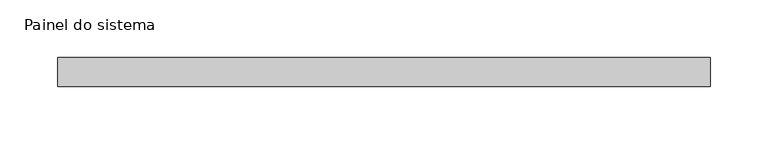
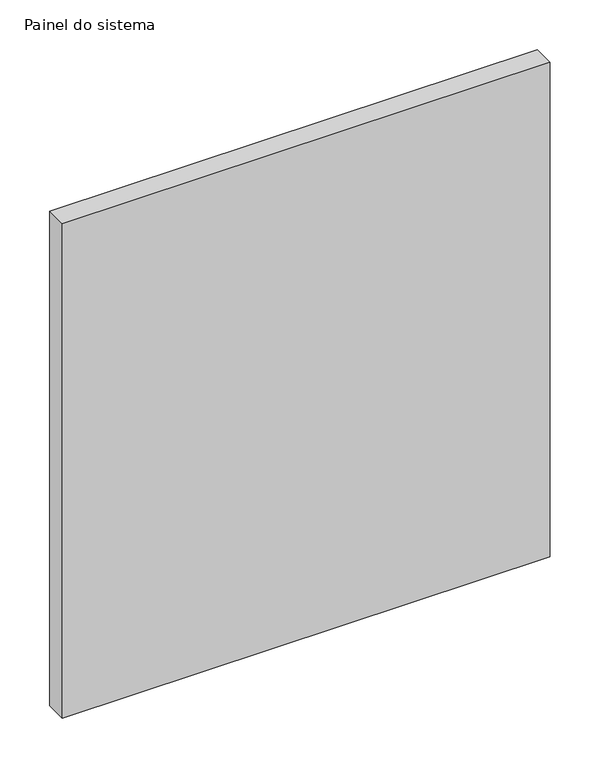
"""IFC4 building model written with IfcOpenShell, lengths in millimetres: plate geometry, Painel do sistema : Envidraçado."""

from ifc_helpers import new_model, si_unit, origin, origin_with_axes, place, context, project, spatial, polyline, outline, extrude, source, transform, mapped, element, save


def painel_do_sistema_d329bd49(model_context):
    return source(origin(), model_context, "Body", "SweptSolid", [
        extrude(outline(polyline([(282.5, 24.5), (-282.5, 24.5), (-282.5, 49.5), (282.5, 49.5), (282.5, 24.5)])), origin_with_axes(), (0.0, 0.0, 1.0), 605.0),
    ])


if __name__ == "__main__":
    model = new_model("IFC4")
    model_context = context("Model", 3, world=origin())
    ifc_project = project(units=[si_unit("LENGTHUNIT", "METRE", prefix="MILLI")], contexts=[model_context])
    site = spatial("IfcSite", under=ifc_project)
    building = spatial("IfcBuilding", under=site)
    placement = place(None, origin())
    painel_do_sistema_shape = painel_do_sistema_d329bd49(model_context)
    element("IfcPlate", 1, ObjectType="Painel do sistema : Envidraçado", at=placement, inside=building, context=model_context, shape_type="MappedRepresentation", body=[
        mapped(painel_do_sistema_shape, transform((0.0, 0.0, 0.0), x_axis=(1.0, 0.0, 0.0), y_axis=(0.0, 1.0, 0.0), z_axis=(0.0, 0.0, 1.0))),
    ])
    save(model, "model.ifc")
